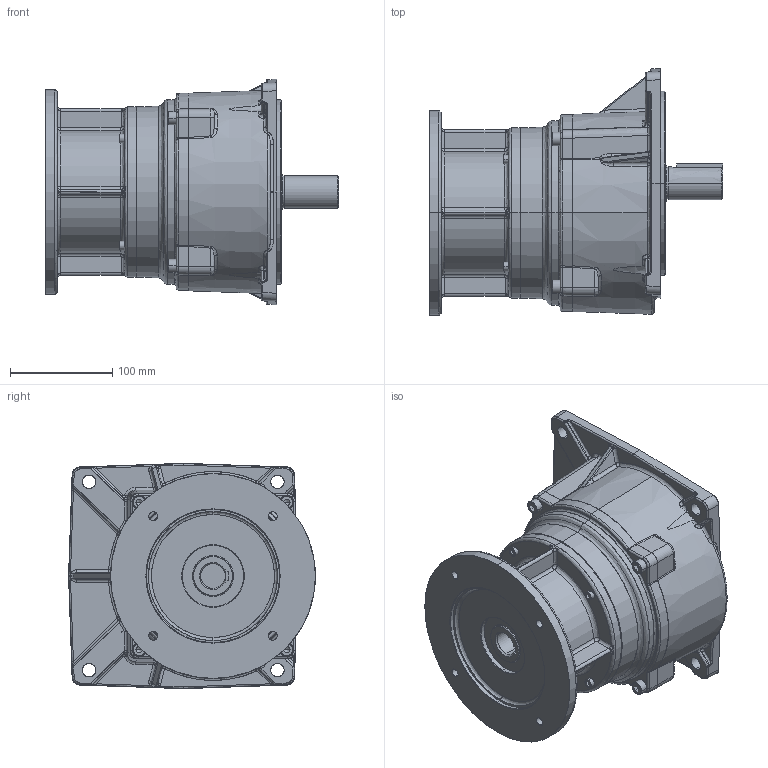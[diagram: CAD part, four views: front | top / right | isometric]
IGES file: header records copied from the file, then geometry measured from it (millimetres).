
Start section: SolidWorks IGES file using analytic representation for surfaces
Bounding box: 287 x 241 x 220 mm (x, y, z)
Surface area: 417123.1 mm2 (no closed solid volume)
Topology: 0 solids, 0 shells, 848 faces, 10769 edges, 10730 vertices
Faces by surface type: bspline 503, revolution 345
